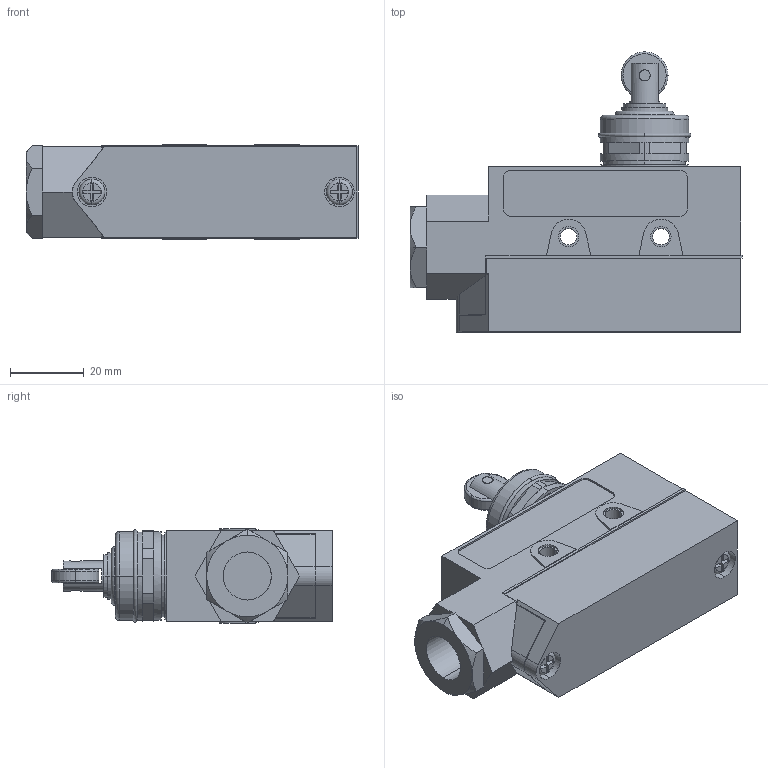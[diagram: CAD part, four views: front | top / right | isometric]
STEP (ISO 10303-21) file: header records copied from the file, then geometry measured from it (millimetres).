
FILE_DESCRIPTION (( 'STEP AP203' ), '1' );
FILE_NAME ('TZ-6102.STEP', '2019-03-27T12:59:23', ( '' ), ( '' ), 'SwSTEP 2.0', 'SolidWorks 2012', '' );
FILE_SCHEMA (( 'CONFIG_CONTROL_DESIGN' ));
Length unit declared in the file: millimetre
Products named in the file (1): TZ-6102
Bounding box: 89.9 x 75.85 x 25.5 mm (x, y, z)
Volume: 90224.5 mm3; surface area: 18446 mm2
Topology: 1 solids, 1 shells, 255 faces, 625 edges, 391 vertices
Faces by surface type: plane 159, cylinder 73, torus 14, cone 9
Entity records: 7720 total; most frequent: CARTESIAN_POINT 1556, DIRECTION 1291, ORIENTED_EDGE 1250, EDGE_CURVE 625, AXIS2_PLACEMENT_3D 462, VERTEX_POINT 391, LINE 367, VECTOR 367
